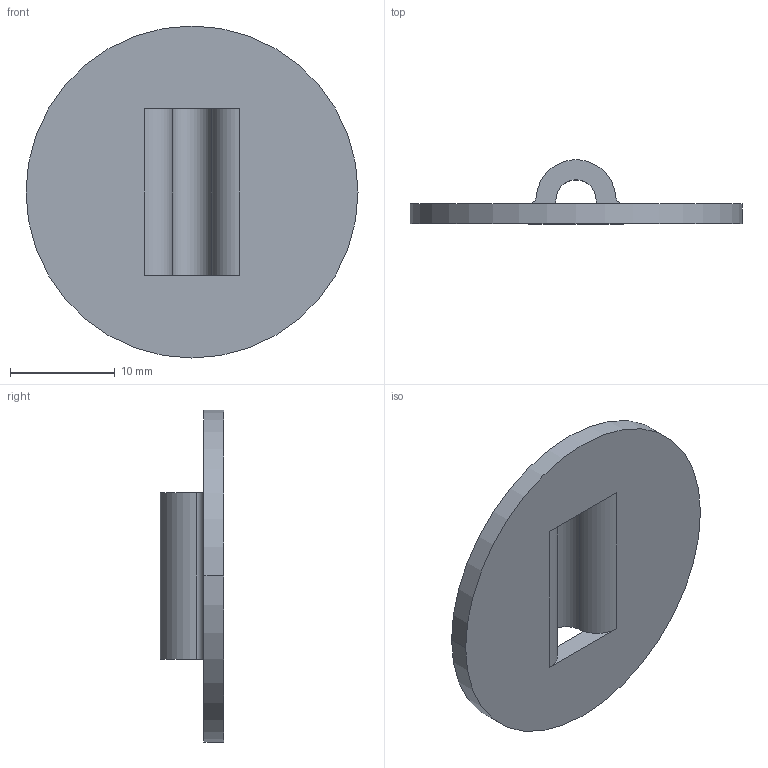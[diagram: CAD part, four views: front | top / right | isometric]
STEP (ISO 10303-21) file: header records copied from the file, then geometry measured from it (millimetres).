
FILE_DESCRIPTION (( 'STEP AP203' ), '1' );
FILE_NAME ('598605-10.STEP', '2024-11-14T17:33:43', ( '' ), ( '' ), 'SwSTEP 2.0', 'SolidWorks 2024', '' );
FILE_SCHEMA (( 'CONFIG_CONTROL_DESIGN' ));
Length unit declared in the file: inch
Products named in the file (1): 598605-10
Bounding box: 31.75 x 6.08 x 31.75 mm (x, y, z)
Volume: 1644.4 mm3; surface area: 1974.3 mm2
Topology: 1 solids, 1 shells, 14 faces, 38 edges, 24 vertices
Faces by surface type: cylinder 8, plane 6
Entity records: 537 total; most frequent: DIRECTION 88, CARTESIAN_POINT 77, ORIENTED_EDGE 76, EDGE_CURVE 38, AXIS2_PLACEMENT_3D 35, VERTEX_POINT 24, CIRCLE 20, VECTOR 18
